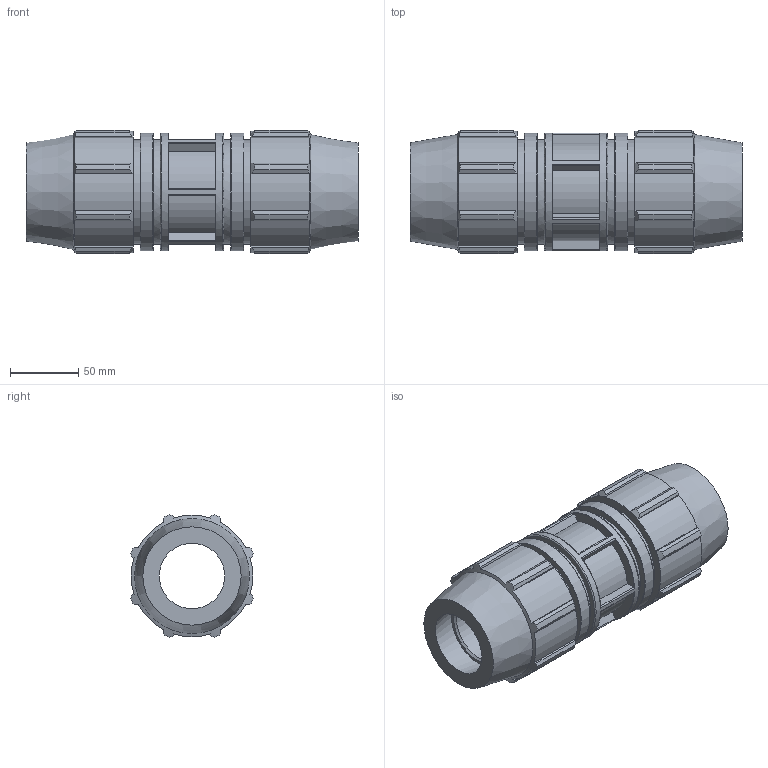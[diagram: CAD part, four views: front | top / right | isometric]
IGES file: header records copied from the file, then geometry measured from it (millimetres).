
Global section: file name: 0761M0015.ipt; native system: Autodesk Inventor 2019; preprocessor: unknown; author: KIM; date: 20210826.124847; units: inch
Bounding box: 243.84 x 90.34 x 90.34 mm (x, y, z)
Volume: 870854.9 mm3; surface area: 127133.6 mm2
Topology: 1 solids, 1 shells, 200 faces, 559 edges, 376 vertices
Faces by surface type: plane 100, cylinder 57, revolution 23, cone 20
Full cylindrical faces by diameter (mm): 76.81 x4, 86.411 x3
